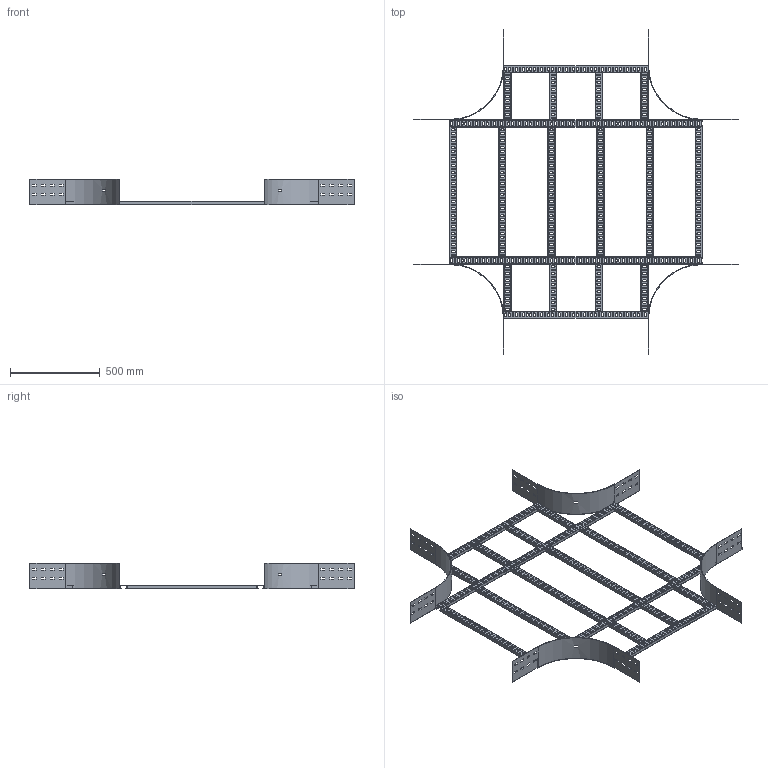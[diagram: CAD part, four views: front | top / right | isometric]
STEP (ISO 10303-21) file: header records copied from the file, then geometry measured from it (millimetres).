
FILE_DESCRIPTION(/* description */ ('','CAx-IF Rec.Pracs.---Representation and Presentation of Product Manufacturing Information (PMI)---4.0---2014-10-13'),/* implementation_level */ '2;1');
FILE_NAME(/* name */ 'Eurostrut_ECO150-800-300_Crossover for Cable Ladder ECL.step',/* time_stamp */ '2026-09-03T13:37:43+02:00',/* author */ (''),/* organization */ (''),/* preprocessor_version */ 'ST-DEVELOPER v20.1',/* originating_system */ 'Autodesk Revit 2027 27.2.0.39',/* authorisation */ '');
FILE_SCHEMA (('AP242_MANAGED_MODEL_BASED_3D_ENGINEERING_MIM_LF { 1 0 10303 442 2 1 4 }'));
Length unit declared in the file: millimetre
Products named in the file (10): TopLevelAssembly; Sweep; Sweep_1; Sweep_2; Sweep_3; Eurostrut_Cable Ladder_Rung_With slots; Eurostrut_Cable Ladder_Rung_With slots_1; Eurostrut_Cable Ladder_Rung Array Straight_Slotted; Eurostrut_Cable Ladder_Rung Array Straight_Slotted_1; Eurostrut_Cable Ladder_Accessory End_54-94-142
Assembly tree (19 placements, depth 2):
  TopLevelAssembly
    Sweep
    Sweep_1
    Eurostrut_Cable Ladder_Rung_With slots  x2
    Eurostrut_Cable Ladder_Rung_With slots_1  x2
    Sweep_2
    Sweep_3
    Eurostrut_Cable Ladder_Rung Array Straight_Slotted
    Eurostrut_Cable Ladder_Rung Array Straight_Slotted_1  x2
    Eurostrut_Cable Ladder_Accessory End_54-94-142  x8
Bounding box: 1811 x 1811 x 142 mm (x, y, z)
Volume: 2773845.2 mm3; surface area: 2865155.1 mm2
Topology: 30 solids, 30 shells, 2836 faces, 8328 edges, 5552 vertices
Faces by surface type: plane 1672, bspline 1084, cylinder 80
Entity records: 83594 total; most frequent: CARTESIAN_POINT 34153, ORIENTED_EDGE 10656, DIRECTION 9134, EDGE_CURVE 5328, LINE 3684, VECTOR 3684, VERTEX_POINT 3552, AXIS2_PLACEMENT_3D 2725
